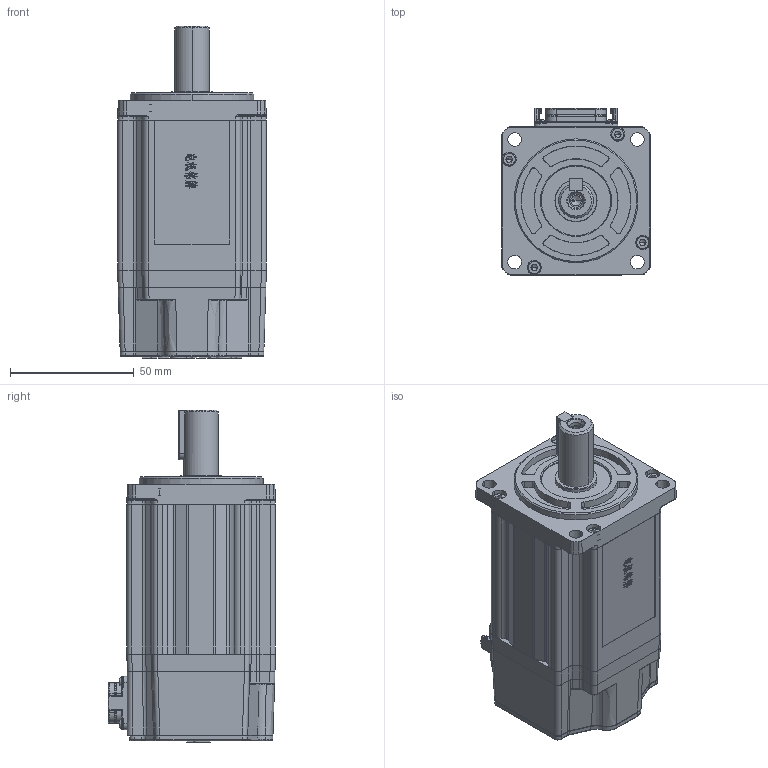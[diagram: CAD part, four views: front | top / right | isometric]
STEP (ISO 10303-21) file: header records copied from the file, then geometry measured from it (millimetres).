
FILE_DESCRIPTION (( 'STEP AP203' ), '1' );
FILE_NAME ('MC20-060-3L30-N401-0¡õCK-NNNN.STEP', '2026-04-19T15:11:00', ( '' ), ( '' ), 'SwSTEP 2.0', 'SolidWorks 2014', '' );
FILE_SCHEMA (( 'CONFIG_CONTROL_DESIGN' ));
Products named in the file (1): MC20-060-3L30-N401-0¡õCK-NNNN
Bounding box: 60 x 67.55 x 134 mm (x, y, z)
Volume: 339068.6 mm3; surface area: 70885.4 mm2
Topology: 11 solids, 15 shells, 2377 faces, 6392 edges, 4115 vertices
Faces by surface type: plane 1114, cylinder 564, bspline 484, cone 179, torus 36
Entity records: 97156 total; most frequent: CARTESIAN_POINT 41916, ORIENTED_EDGE 12642, DIRECTION 9556, EDGE_CURVE 6321, VERTEX_POINT 4115, VECTOR 3720, LINE 3720, AXIS2_PLACEMENT_3D 2918
